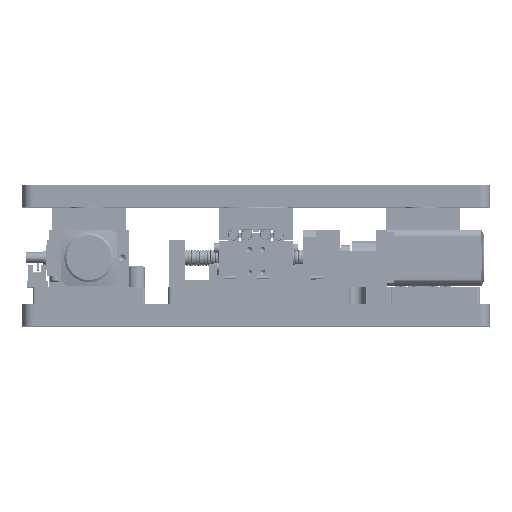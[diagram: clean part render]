
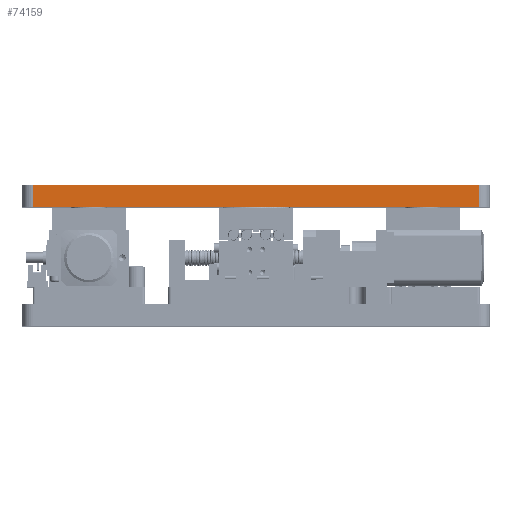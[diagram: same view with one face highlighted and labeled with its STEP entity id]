
A CAD part, top view. The second image highlights one B-rep face of the part: STEP entity #74159.
In plain terms, the highlighted planar face has unit normal (0, 0, 1).
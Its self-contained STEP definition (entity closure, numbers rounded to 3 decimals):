
#2832 = CARTESIAN_POINT ( 'NONE',  ( 167., 89., 175. ) ) ;
#19387 = ORIENTED_EDGE ( 'NONE', *, *, #159127, .F. ) ;
#31110 = LINE ( 'NONE', #93772, #194068 ) ;
#32220 = EDGE_CURVE ( 'NONE', #251438, #37679, #234401, .T. ) ;
#36327 = VECTOR ( 'NONE', #175613, 1000. ) ;
#37520 = CARTESIAN_POINT ( 'NONE',  ( -167., 89., 175. ) ) ;
#37679 = VERTEX_POINT ( 'NONE', #78111 ) ;
#52550 = EDGE_LOOP ( 'NONE', ( #236141, #19387, #105814, #243254 ) ) ;
#56217 = DIRECTION ( 'NONE',  ( 0., 1., 0. ) ) ;
#62919 = VECTOR ( 'NONE', #157019, 1000. ) ;
#71665 = AXIS2_PLACEMENT_3D ( 'NONE', #254204, #88884, #256868 ) ;
#74159 = ADVANCED_FACE ( 'NONE', ( #132849 ), #171580, .F. ) ;
#75810 = VERTEX_POINT ( 'NONE', #160752 ) ;
#78111 = CARTESIAN_POINT ( 'NONE',  ( -167., 105., 175. ) ) ;
#84257 = EDGE_CURVE ( 'NONE', #251438, #122662, #31110, .T. ) ;
#85242 = VECTOR ( 'NONE', #56217, 1000. ) ;
#88521 = DIRECTION ( 'NONE',  ( 0., -1., 0. ) ) ;
#88884 = DIRECTION ( 'NONE',  ( 0., 0., -1. ) ) ;
#92907 = LINE ( 'NONE', #111621, #36327 ) ;
#93772 = CARTESIAN_POINT ( 'NONE',  ( 167., 89., 175. ) ) ;
#94312 = CARTESIAN_POINT ( 'NONE',  ( -167., 105., 175. ) ) ;
#100061 = EDGE_CURVE ( 'NONE', #75810, #37679, #136258, .T. ) ;
#105814 = ORIENTED_EDGE ( 'NONE', *, *, #84257, .F. ) ;
#111621 = CARTESIAN_POINT ( 'NONE',  ( 167., 89., 175. ) ) ;
#122662 = VERTEX_POINT ( 'NONE', #2832 ) ;
#132849 = FACE_OUTER_BOUND ( 'NONE', #52550, .T. ) ;
#136258 = LINE ( 'NONE', #37520, #85242 ) ;
#157019 = DIRECTION ( 'NONE',  ( -1., 0., 0. ) ) ;
#159127 = EDGE_CURVE ( 'NONE', #122662, #75810, #92907, .T. ) ;
#160752 = CARTESIAN_POINT ( 'NONE',  ( -167., 89., 175. ) ) ;
#171580 = PLANE ( 'NONE',  #71665 ) ;
#175613 = DIRECTION ( 'NONE',  ( -1., 0., 0. ) ) ;
#191506 = CARTESIAN_POINT ( 'NONE',  ( 167., 105., 175. ) ) ;
#194068 = VECTOR ( 'NONE', #88521, 1000. ) ;
#234401 = LINE ( 'NONE', #94312, #62919 ) ;
#236141 = ORIENTED_EDGE ( 'NONE', *, *, #100061, .F. ) ;
#243254 = ORIENTED_EDGE ( 'NONE', *, *, #32220, .T. ) ;
#251438 = VERTEX_POINT ( 'NONE', #191506 ) ;
#254204 = CARTESIAN_POINT ( 'NONE',  ( 167., 89., 175. ) ) ;
#256868 = DIRECTION ( 'NONE',  ( 1., 0., 0. ) ) ;
